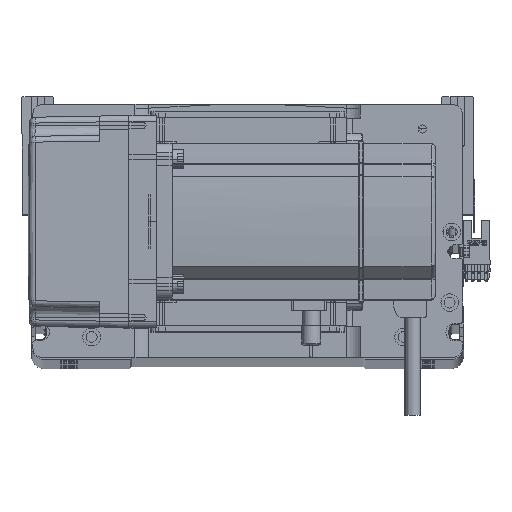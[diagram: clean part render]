
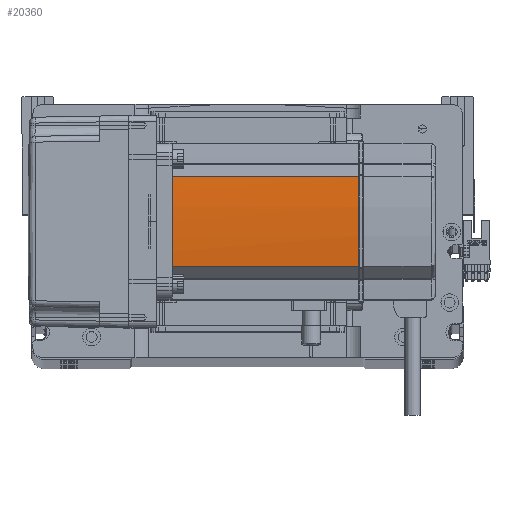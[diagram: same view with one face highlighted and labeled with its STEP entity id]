
A CAD part, top view. The second image highlights one B-rep face of the part: STEP entity #20360.
In plain terms, the highlighted cylindrical face has radius 270 mm (diameter 540 mm), a partial arc.
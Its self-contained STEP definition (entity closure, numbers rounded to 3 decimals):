
#2797 = CIRCLE ( 'NONE', #23836, 270. ) ;
#5132 = CYLINDRICAL_SURFACE ( 'NONE', #31726, 270. ) ;
#7188 = CARTESIAN_POINT ( 'NONE',  ( 39.042, -22.724, 58. ) ) ;
#7856 = CARTESIAN_POINT ( 'NONE',  ( 40., -0.042, 134. ) ) ;
#8759 = AXIS2_PLACEMENT_3D ( 'NONE', #10624, #10424, #41758 ) ;
#9236 = CIRCLE ( 'NONE', #8759, 270. ) ;
#9360 = DIRECTION ( 'NONE',  ( 0., 0., -1. ) ) ;
#9516 = EDGE_CURVE ( 'NONE', #43413, #22046, #53603, .T. ) ;
#10424 = DIRECTION ( 'NONE',  ( 0., 0., -1. ) ) ;
#10624 = CARTESIAN_POINT ( 'NONE',  ( -230., 0., 134. ) ) ;
#11634 = DIRECTION ( 'NONE',  ( 0., 0., -1. ) ) ;
#13546 = VECTOR ( 'NONE', #33457, 1000. ) ;
#15941 = CARTESIAN_POINT ( 'NONE',  ( 40., 0.127, 134. ) ) ;
#18987 = ORIENTED_EDGE ( 'NONE', *, *, #54250, .F. ) ;
#20360 = ADVANCED_FACE ( 'NONE', ( #35585 ), #5132, .T. ) ;
#20891 = DIRECTION ( 'NONE',  ( 0., 0., -1. ) ) ;
#21039 = CARTESIAN_POINT ( 'NONE',  ( 40., 0.127, 134. ) ) ;
#22046 = VERTEX_POINT ( 'NONE', #15941 ) ;
#22402 = CIRCLE ( 'NONE', #30285, 270. ) ;
#23836 = AXIS2_PLACEMENT_3D ( 'NONE', #47350, #20891, #47927 ) ;
#24727 = DIRECTION ( 'NONE',  ( 0., 0., -1. ) ) ;
#26039 = VERTEX_POINT ( 'NONE', #45881 ) ;
#26253 = ORIENTED_EDGE ( 'NONE', *, *, #49366, .T. ) ;
#26641 = VERTEX_POINT ( 'NONE', #51849 ) ;
#27316 = ORIENTED_EDGE ( 'NONE', *, *, #35425, .T. ) ;
#28196 = VECTOR ( 'NONE', #11634, 1000. ) ;
#29353 = CARTESIAN_POINT ( 'NONE',  ( 39.042, -22.724, 134. ) ) ;
#30285 = AXIS2_PLACEMENT_3D ( 'NONE', #46913, #24727, #55860 ) ;
#31726 = AXIS2_PLACEMENT_3D ( 'NONE', #48849, #9360, #54091 ) ;
#33247 = EDGE_CURVE ( 'NONE', #43413, #55532, #9236, .T. ) ;
#33457 = DIRECTION ( 'NONE',  ( 0., 0., 1. ) ) ;
#34437 = CARTESIAN_POINT ( 'NONE',  ( 40., -0.127, 134. ) ) ;
#35425 = EDGE_CURVE ( 'NONE', #55532, #26641, #46313, .T. ) ;
#35585 = FACE_OUTER_BOUND ( 'NONE', #37309, .T. ) ;
#36087 = EDGE_CURVE ( 'NONE', #38327, #26039, #51178, .T. ) ;
#37309 = EDGE_LOOP ( 'NONE', ( #27316, #18987, #51632, #26253, #39854, #52432 ) ) ;
#38327 = VERTEX_POINT ( 'NONE', #42077 ) ;
#39324 = CARTESIAN_POINT ( 'NONE',  ( 40., -0.127, 134. ) ) ;
#39854 = ORIENTED_EDGE ( 'NONE', *, *, #9516, .F. ) ;
#41758 = DIRECTION ( 'NONE',  ( -1., 0., 0. ) ) ;
#42077 = CARTESIAN_POINT ( 'NONE',  ( 39.042, 22.724, 39. ) ) ;
#43058 = CARTESIAN_POINT ( 'NONE',  ( 40., 0.042, 134. ) ) ;
#43413 = VERTEX_POINT ( 'NONE', #39324 ) ;
#45881 = CARTESIAN_POINT ( 'NONE',  ( 39.042, 22.724, 134. ) ) ;
#46313 = LINE ( 'NONE', #7188, #28196 ) ;
#46913 = CARTESIAN_POINT ( 'NONE',  ( -230., 0., 134. ) ) ;
#47350 = CARTESIAN_POINT ( 'NONE',  ( -230., 0., 39. ) ) ;
#47927 = DIRECTION ( 'NONE',  ( -1., 0., 0. ) ) ;
#48849 = CARTESIAN_POINT ( 'NONE',  ( -230., 0., 58. ) ) ;
#49366 = EDGE_CURVE ( 'NONE', #26039, #22046, #22402, .T. ) ;
#50656 = CARTESIAN_POINT ( 'NONE',  ( 39.042, 22.724, 58. ) ) ;
#51178 = LINE ( 'NONE', #50656, #13546 ) ;
#51632 = ORIENTED_EDGE ( 'NONE', *, *, #36087, .T. ) ;
#51849 = CARTESIAN_POINT ( 'NONE',  ( 39.042, -22.724, 39. ) ) ;
#52432 = ORIENTED_EDGE ( 'NONE', *, *, #33247, .T. ) ;
#53603 = B_SPLINE_CURVE_WITH_KNOTS ( 'NONE', 3,
 ( #34437, #7856, #43058, #21039 ),
 .UNSPECIFIED., .F., .F.,
 ( 4, 4 ),
 ( 0., 1. ),
 .UNSPECIFIED. ) ;
#54091 = DIRECTION ( 'NONE',  ( -1., 0., 0. ) ) ;
#54250 = EDGE_CURVE ( 'NONE', #38327, #26641, #2797, .T. ) ;
#55532 = VERTEX_POINT ( 'NONE', #29353 ) ;
#55860 = DIRECTION ( 'NONE',  ( -1., 0., 0. ) ) ;
